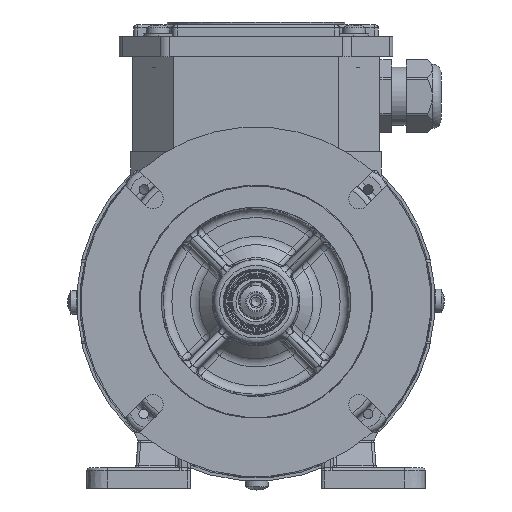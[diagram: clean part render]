
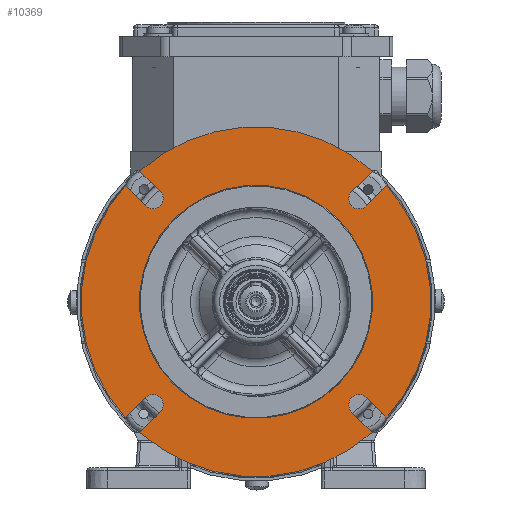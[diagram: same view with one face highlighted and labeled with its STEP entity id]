
A CAD part, front view. The second image highlights one B-rep face of the part: STEP entity #10369.
In plain terms, the highlighted planar face has unit normal (0, -1, 0).
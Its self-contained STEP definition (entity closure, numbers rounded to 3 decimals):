
#5989=FACE_BOUND('',#17292,.T.);
#5990=FACE_BOUND('',#17293,.T.);
#10369=ADVANCED_FACE('',(#5989,#5990),#12432,.T.);
#12432=PLANE('',#57534);
#17292=EDGE_LOOP('',(#27745));
#17293=EDGE_LOOP('',(#27746,#27747,#27748,#27749,#27750,#27751,#27752,#27753,
#27754,#27755,#27756,#27757,#27758,#27759,#27760,#27761));
#27745=ORIENTED_EDGE('',*,*,#42132,.T.);
#27746=ORIENTED_EDGE('',*,*,#42133,.T.);
#27747=ORIENTED_EDGE('',*,*,#42134,.T.);
#27748=ORIENTED_EDGE('',*,*,#42135,.T.);
#27749=ORIENTED_EDGE('',*,*,#42136,.T.);
#27750=ORIENTED_EDGE('',*,*,#42137,.T.);
#27751=ORIENTED_EDGE('',*,*,#42138,.T.);
#27752=ORIENTED_EDGE('',*,*,#42139,.T.);
#27753=ORIENTED_EDGE('',*,*,#42140,.T.);
#27754=ORIENTED_EDGE('',*,*,#42141,.T.);
#27755=ORIENTED_EDGE('',*,*,#42142,.F.);
#27756=ORIENTED_EDGE('',*,*,#42143,.F.);
#27757=ORIENTED_EDGE('',*,*,#42144,.F.);
#27758=ORIENTED_EDGE('',*,*,#42145,.T.);
#27759=ORIENTED_EDGE('',*,*,#42146,.F.);
#27760=ORIENTED_EDGE('',*,*,#42147,.F.);
#27761=ORIENTED_EDGE('',*,*,#42148,.F.);
#35995=VERTEX_POINT('',#86926);
#35996=VERTEX_POINT('',#86928);
#35997=VERTEX_POINT('',#86929);
#35998=VERTEX_POINT('',#86931);
#35999=VERTEX_POINT('',#86933);
#36000=VERTEX_POINT('',#86935);
#36001=VERTEX_POINT('',#86937);
#36002=VERTEX_POINT('',#86939);
#36003=VERTEX_POINT('',#86941);
#36004=VERTEX_POINT('',#86943);
#36005=VERTEX_POINT('',#86945);
#36006=VERTEX_POINT('',#86947);
#36007=VERTEX_POINT('',#86949);
#36008=VERTEX_POINT('',#86951);
#36009=VERTEX_POINT('',#86953);
#36010=VERTEX_POINT('',#86955);
#36011=VERTEX_POINT('',#86957);
#42132=EDGE_CURVE('',#35995,#35995,#52652,.T.);
#42133=EDGE_CURVE('',#35996,#35997,#52653,.T.);
#42134=EDGE_CURVE('',#35997,#35998,#47064,.T.);
#42135=EDGE_CURVE('',#35998,#35999,#52654,.T.);
#42136=EDGE_CURVE('',#35999,#36000,#47065,.T.);
#42137=EDGE_CURVE('',#36000,#36001,#52655,.T.);
#42138=EDGE_CURVE('',#36001,#36002,#47066,.T.);
#42139=EDGE_CURVE('',#36002,#36003,#52656,.T.);
#42140=EDGE_CURVE('',#36003,#36004,#47067,.T.);
#42141=EDGE_CURVE('',#36004,#36005,#52657,.T.);
#42142=EDGE_CURVE('',#36006,#36005,#47068,.T.);
#42143=EDGE_CURVE('',#36007,#36006,#52658,.T.);
#42144=EDGE_CURVE('',#36008,#36007,#47069,.T.);
#42145=EDGE_CURVE('',#36008,#36009,#52659,.T.);
#42146=EDGE_CURVE('',#36010,#36009,#47070,.T.);
#42147=EDGE_CURVE('',#36011,#36010,#52660,.T.);
#42148=EDGE_CURVE('',#35996,#36011,#47071,.T.);
#47064=LINE('',#86930,#50280);
#47065=LINE('',#86934,#50281);
#47066=LINE('',#86938,#50282);
#47067=LINE('',#86942,#50283);
#47068=LINE('',#86946,#50284);
#47069=LINE('',#86950,#50285);
#47070=LINE('',#86954,#50286);
#47071=LINE('',#86958,#50287);
#50280=VECTOR('',#68203,1.);
#50281=VECTOR('',#68206,1.);
#50282=VECTOR('',#68209,1.);
#50283=VECTOR('',#68212,1.);
#50284=VECTOR('',#68215,1.);
#50285=VECTOR('',#68218,1.);
#50286=VECTOR('',#68221,1.);
#50287=VECTOR('',#68224,1.);
#52652=CIRCLE('',#57525,40.);
#52653=CIRCLE('',#57526,60.);
#52654=CIRCLE('',#57527,3.5);
#52655=CIRCLE('',#57528,60.);
#52656=CIRCLE('',#57529,3.5);
#52657=CIRCLE('',#57530,60.);
#52658=CIRCLE('',#57531,3.5);
#52659=CIRCLE('',#57532,60.);
#52660=CIRCLE('',#57533,3.5);
#57525=AXIS2_PLACEMENT_3D('',#86925,#68199,#68200);
#57526=AXIS2_PLACEMENT_3D('',#86927,#68201,#68202);
#57527=AXIS2_PLACEMENT_3D('',#86932,#68204,#68205);
#57528=AXIS2_PLACEMENT_3D('',#86936,#68207,#68208);
#57529=AXIS2_PLACEMENT_3D('',#86940,#68210,#68211);
#57530=AXIS2_PLACEMENT_3D('',#86944,#68213,#68214);
#57531=AXIS2_PLACEMENT_3D('',#86948,#68216,#68217);
#57532=AXIS2_PLACEMENT_3D('',#86952,#68219,#68220);
#57533=AXIS2_PLACEMENT_3D('',#86956,#68222,#68223);
#57534=AXIS2_PLACEMENT_3D('',#86959,#68225,#68226);
#68199=DIRECTION('',(0.,1.,0.));
#68200=DIRECTION('',(0.707,0.,-0.708));
#68201=DIRECTION('',(0.,-1.,0.));
#68202=DIRECTION('',(0.707,0.,-0.708));
#68203=DIRECTION('',(-0.708,0.,-0.707));
#68204=DIRECTION('',(0.,1.,0.));
#68205=DIRECTION('',(0.707,0.,-0.708));
#68206=DIRECTION('',(0.708,0.,0.707));
#68207=DIRECTION('',(0.,-1.,0.));
#68208=DIRECTION('',(0.707,0.,-0.708));
#68209=DIRECTION('',(0.707,0.,-0.708));
#68210=DIRECTION('',(0.,1.,0.));
#68211=DIRECTION('',(0.708,0.,0.707));
#68212=DIRECTION('',(-0.707,0.,0.708));
#68213=DIRECTION('',(0.,-1.,0.));
#68214=DIRECTION('',(0.707,0.,-0.708));
#68215=DIRECTION('',(-0.708,0.,-0.707));
#68216=DIRECTION('',(0.,-1.,0.));
#68217=DIRECTION('',(-0.707,0.,0.708));
#68218=DIRECTION('',(0.708,0.,0.707));
#68219=DIRECTION('',(0.,-1.,0.));
#68220=DIRECTION('',(0.707,0.,-0.708));
#68221=DIRECTION('',(0.707,0.,-0.708));
#68222=DIRECTION('',(0.,-1.,0.));
#68223=DIRECTION('',(-0.708,0.,-0.707));
#68224=DIRECTION('',(-0.707,0.,0.708));
#68225=DIRECTION('',(0.,-1.,0.));
#68226=DIRECTION('',(-0.707,0.,0.708));
#86925=CARTESIAN_POINT('',(0.,-42.5,0.));
#86926=CARTESIAN_POINT('',(28.267,-42.5,-28.302));
#86927=CARTESIAN_POINT('',(0.,-42.5,0.));
#86928=CARTESIAN_POINT('',(44.805,-42.5,-39.907));
#86929=CARTESIAN_POINT('',(44.853,-42.5,39.852));
#86930=CARTESIAN_POINT('',(52.001,-42.5,46.991));
#86931=CARTESIAN_POINT('',(37.85,-42.5,32.857));
#86932=CARTESIAN_POINT('',(35.377,-42.5,35.334));
#86933=CARTESIAN_POINT('',(32.904,-42.5,37.81));
#86934=CARTESIAN_POINT('',(32.904,-42.5,37.81));
#86935=CARTESIAN_POINT('',(39.907,-42.5,44.805));
#86936=CARTESIAN_POINT('',(0.,-42.5,0.));
#86937=CARTESIAN_POINT('',(-39.852,-42.5,44.853));
#86938=CARTESIAN_POINT('',(-46.991,-42.5,52.001));
#86939=CARTESIAN_POINT('',(-32.857,-42.5,37.85));
#86940=CARTESIAN_POINT('',(-35.334,-42.5,35.377));
#86941=CARTESIAN_POINT('',(-37.81,-42.5,32.904));
#86942=CARTESIAN_POINT('',(-37.81,-42.5,32.904));
#86943=CARTESIAN_POINT('',(-44.805,-42.5,39.907));
#86944=CARTESIAN_POINT('',(0.,-42.5,0.));
#86945=CARTESIAN_POINT('',(-44.853,-42.5,-39.852));
#86946=CARTESIAN_POINT('',(-37.85,-42.5,-32.857));
#86947=CARTESIAN_POINT('',(-37.85,-42.5,-32.857));
#86948=CARTESIAN_POINT('',(-35.377,-42.5,-35.334));
#86949=CARTESIAN_POINT('',(-32.904,-42.5,-37.81));
#86950=CARTESIAN_POINT('',(-47.054,-42.5,-51.944));
#86951=CARTESIAN_POINT('',(-39.907,-42.5,-44.805));
#86952=CARTESIAN_POINT('',(0.,-42.5,0.));
#86953=CARTESIAN_POINT('',(39.852,-42.5,-44.853));
#86954=CARTESIAN_POINT('',(32.857,-42.5,-37.85));
#86955=CARTESIAN_POINT('',(32.857,-42.5,-37.85));
#86956=CARTESIAN_POINT('',(35.334,-42.5,-35.377));
#86957=CARTESIAN_POINT('',(37.81,-42.5,-32.904));
#86958=CARTESIAN_POINT('',(51.944,-42.5,-47.054));
#86959=CARTESIAN_POINT('',(0.,-42.5,0.));
